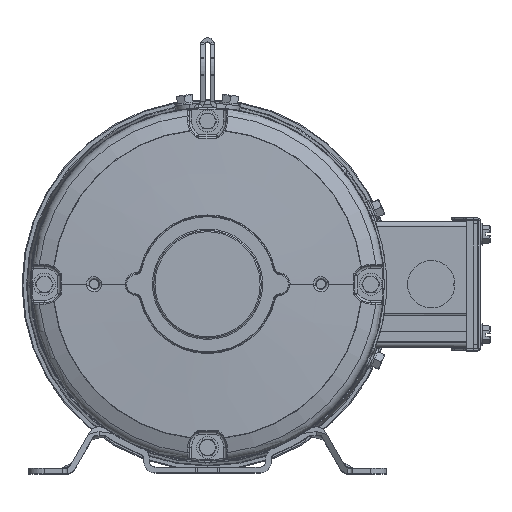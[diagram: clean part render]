
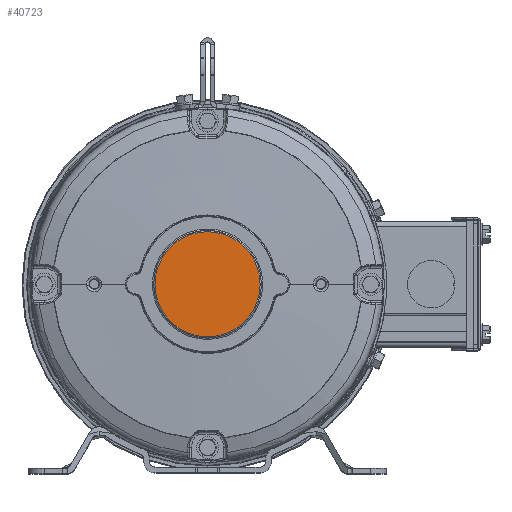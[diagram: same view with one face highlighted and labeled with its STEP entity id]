
A CAD part, top view. The second image highlights one B-rep face of the part: STEP entity #40723.
In plain terms, the highlighted planar face has unit normal (0, 0, 1).
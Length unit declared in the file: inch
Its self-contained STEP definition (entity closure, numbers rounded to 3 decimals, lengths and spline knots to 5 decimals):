
#3847 = CIRCLE ( 'NONE', #30893, 1.24789 ) ;
#4473 = VERTEX_POINT ( 'NONE', #12417 ) ;
#9612 = CARTESIAN_POINT ( 'NONE',  ( -1.24789, 0., 14.1901 ) ) ;
#12417 = CARTESIAN_POINT ( 'NONE',  ( 1.24789, 0., 14.1901 ) ) ;
#13191 = DIRECTION ( 'NONE',  ( 0., 0., -1. ) ) ;
#21442 = DIRECTION ( 'NONE',  ( -1., 0., 0. ) ) ;
#23092 = DIRECTION ( 'NONE',  ( 0., 0., 1. ) ) ;
#30893 = AXIS2_PLACEMENT_3D ( 'NONE', #73579, #149549, #136521 ) ;
#38501 = FACE_OUTER_BOUND ( 'NONE', #113250, .T. ) ;
#40723 = ADVANCED_FACE ( 'NONE', ( #38501 ), #75115, .F. ) ;
#48039 = CARTESIAN_POINT ( 'NONE',  ( 0., 0., 14.1901 ) ) ;
#60037 = AXIS2_PLACEMENT_3D ( 'NONE', #100034, #13191, #63148 ) ;
#63148 = DIRECTION ( 'NONE',  ( -1., 0., 0. ) ) ;
#73579 = CARTESIAN_POINT ( 'NONE',  ( 0., 0., 14.1901 ) ) ;
#75115 = PLANE ( 'NONE',  #60037 ) ;
#80366 = EDGE_CURVE ( 'NONE', #4473, #122741, #3847, .T. ) ;
#92272 = ORIENTED_EDGE ( 'NONE', *, *, #104512, .T. ) ;
#100034 = CARTESIAN_POINT ( 'NONE',  ( 0., 0., 14.1901 ) ) ;
#104512 = EDGE_CURVE ( 'NONE', #122741, #4473, #138768, .T. ) ;
#112379 = ORIENTED_EDGE ( 'NONE', *, *, #80366, .T. ) ;
#113250 = EDGE_LOOP ( 'NONE', ( #92272, #112379 ) ) ;
#118880 = AXIS2_PLACEMENT_3D ( 'NONE', #48039, #23092, #21442 ) ;
#122741 = VERTEX_POINT ( 'NONE', #9612 ) ;
#136521 = DIRECTION ( 'NONE',  ( -1., 0., 0. ) ) ;
#138768 = CIRCLE ( 'NONE', #118880, 1.24789 ) ;
#149549 = DIRECTION ( 'NONE',  ( 0., 0., 1. ) ) ;
